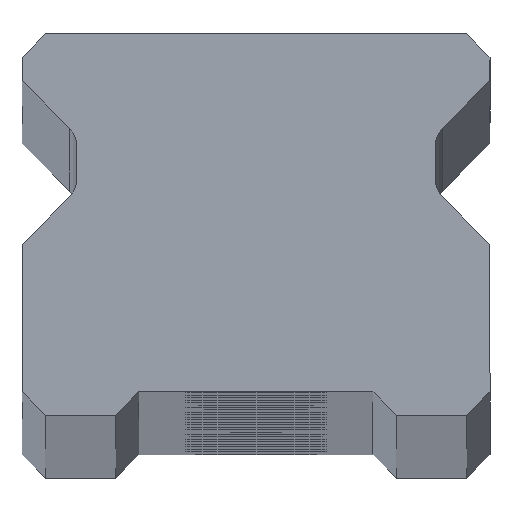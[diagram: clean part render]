
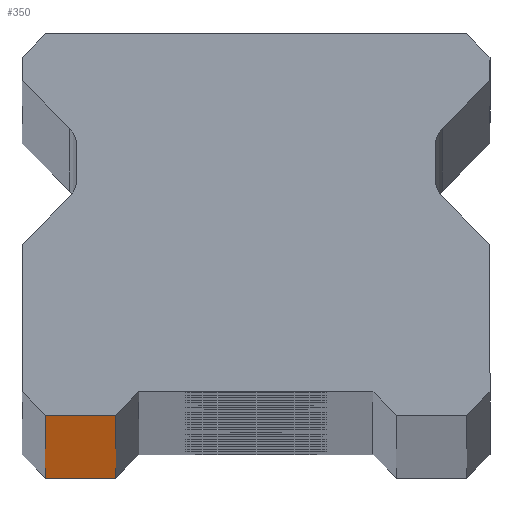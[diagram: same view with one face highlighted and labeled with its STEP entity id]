
A CAD part, top view. The second image highlights one B-rep face of the part: STEP entity #350.
In plain terms, the highlighted planar face has unit normal (0, -1, 0).
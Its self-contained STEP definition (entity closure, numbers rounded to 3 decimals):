
#91 = VERTEX_POINT ( 'NONE', #3229 ) ;
#270 = CARTESIAN_POINT ( 'NONE',  ( -9., 0., 770. ) ) ;
#350 = ADVANCED_FACE ( 'NONE', ( #2171 ), #4228, .F. ) ;
#417 = DIRECTION ( 'NONE',  ( 0., 0., 1. ) ) ;
#756 = CARTESIAN_POINT ( 'NONE',  ( -6., 0., -770. ) ) ;
#844 = VECTOR ( 'NONE', #1177, 1000. ) ;
#944 = VECTOR ( 'NONE', #4594, 1000. ) ;
#1177 = DIRECTION ( 'NONE',  ( 1., 0., 0. ) ) ;
#1520 = CARTESIAN_POINT ( 'NONE',  ( -9., 0., 770. ) ) ;
#1774 = LINE ( 'NONE', #3741, #3324 ) ;
#1871 = AXIS2_PLACEMENT_3D ( 'NONE', #1894, #4551, #4186 ) ;
#1894 = CARTESIAN_POINT ( 'NONE',  ( 10., 0., 770. ) ) ;
#1947 = ORIENTED_EDGE ( 'NONE', *, *, #4187, .F. ) ;
#1969 = VERTEX_POINT ( 'NONE', #270 ) ;
#2171 = FACE_OUTER_BOUND ( 'NONE', #2803, .T. ) ;
#2408 = VERTEX_POINT ( 'NONE', #2526 ) ;
#2526 = CARTESIAN_POINT ( 'NONE',  ( -6., 0., -770. ) ) ;
#2803 = EDGE_LOOP ( 'NONE', ( #4031, #4184, #1947, #4346 ) ) ;
#2880 = LINE ( 'NONE', #756, #3610 ) ;
#2966 = LINE ( 'NONE', #4231, #844 ) ;
#3229 = CARTESIAN_POINT ( 'NONE',  ( -9., 0., -770. ) ) ;
#3324 = VECTOR ( 'NONE', #3661, 1000. ) ;
#3392 = CARTESIAN_POINT ( 'NONE',  ( -6., 0., 770. ) ) ;
#3539 = EDGE_CURVE ( 'NONE', #91, #2408, #2966, .T. ) ;
#3610 = VECTOR ( 'NONE', #417, 1000. ) ;
#3661 = DIRECTION ( 'NONE',  ( 1., 0., 0. ) ) ;
#3741 = CARTESIAN_POINT ( 'NONE',  ( 10., 0., 770. ) ) ;
#3767 = EDGE_CURVE ( 'NONE', #1969, #91, #4518, .T. ) ;
#4031 = ORIENTED_EDGE ( 'NONE', *, *, #3539, .T. ) ;
#4184 = ORIENTED_EDGE ( 'NONE', *, *, #4846, .T. ) ;
#4186 = DIRECTION ( 'NONE',  ( -1., 0., 0. ) ) ;
#4187 = EDGE_CURVE ( 'NONE', #1969, #4326, #1774, .T. ) ;
#4228 = PLANE ( 'NONE',  #1871 ) ;
#4231 = CARTESIAN_POINT ( 'NONE',  ( 10., 0., -770. ) ) ;
#4326 = VERTEX_POINT ( 'NONE', #3392 ) ;
#4346 = ORIENTED_EDGE ( 'NONE', *, *, #3767, .T. ) ;
#4518 = LINE ( 'NONE', #1520, #944 ) ;
#4551 = DIRECTION ( 'NONE',  ( 0., 1., 0. ) ) ;
#4594 = DIRECTION ( 'NONE',  ( 0., 0., -1. ) ) ;
#4846 = EDGE_CURVE ( 'NONE', #2408, #4326, #2880, .T. ) ;
